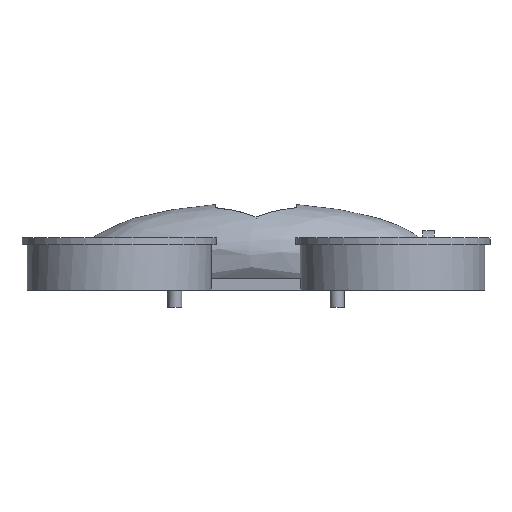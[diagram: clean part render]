
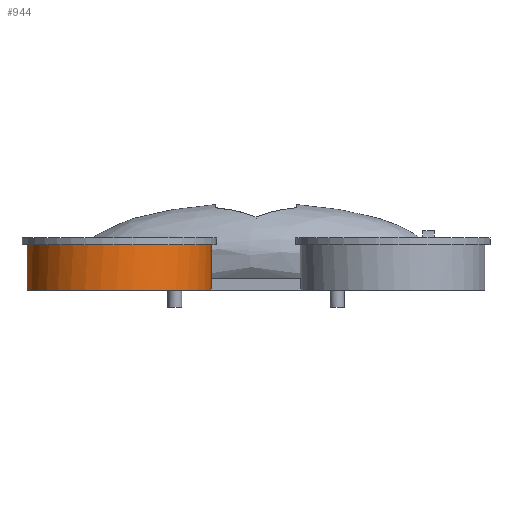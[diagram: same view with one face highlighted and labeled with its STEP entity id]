
A CAD part, front view. The second image highlights one B-rep face of the part: STEP entity #944.
In plain terms, the highlighted cylindrical face has radius 79.6 mm (diameter 159.2 mm), a full revolution.
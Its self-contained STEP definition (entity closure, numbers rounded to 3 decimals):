
#157 = VERTEX_POINT('',#158);
#158 = CARTESIAN_POINT('',(-130.,-59.31,0.));
#175 = VERTEX_POINT('',#176);
#176 = CARTESIAN_POINT('',(-106.,-59.31,0.));
#182 = EDGE_CURVE('',#183,#175,#185,.T.);
#183 = VERTEX_POINT('',#184);
#184 = CARTESIAN_POINT('',(-38.457,-135.,0.));
#185 = CIRCLE('',#186,79.6);
#186 = AXIS2_PLACEMENT_3D('',#187,#188,#189);
#187 = CARTESIAN_POINT('',(-118.,-138.,0.));
#188 = DIRECTION('',(0.,0.,1.));
#189 = DIRECTION('',(1.,0.,0.));
#251 = VERTEX_POINT('',#252);
#252 = CARTESIAN_POINT('',(-38.457,-141.,0.));
#258 = EDGE_CURVE('',#157,#251,#259,.T.);
#259 = CIRCLE('',#260,79.6);
#260 = AXIS2_PLACEMENT_3D('',#261,#262,#263);
#261 = CARTESIAN_POINT('',(-118.,-138.,0.));
#262 = DIRECTION('',(0.,0.,1.));
#263 = DIRECTION('',(1.,0.,0.));
#823 = EDGE_CURVE('',#157,#824,#826,.T.);
#824 = VERTEX_POINT('',#825);
#825 = CARTESIAN_POINT('',(-130.,-59.31,10.));
#826 = LINE('',#827,#828);
#827 = CARTESIAN_POINT('',(-130.,-59.31,0.));
#828 = VECTOR('',#829,1.);
#829 = DIRECTION('',(0.,0.,1.));
#902 = EDGE_CURVE('',#175,#903,#905,.T.);
#903 = VERTEX_POINT('',#904);
#904 = CARTESIAN_POINT('',(-106.,-59.31,10.));
#905 = LINE('',#906,#907);
#906 = CARTESIAN_POINT('',(-106.,-59.31,0.));
#907 = VECTOR('',#908,1.);
#908 = DIRECTION('',(0.,0.,1.));
#944 = ADVANCED_FACE('',(#945),#1006,.T.);
#945 = FACE_BOUND('',#946,.T.);
#946 = EDGE_LOOP('',(#947,#958,#966,#973,#974,#983,#989,#990,#991,#998,
    #999,#1000));
#947 = ORIENTED_EDGE('',*,*,#948,.T.);
#948 = EDGE_CURVE('',#949,#951,#953,.T.);
#949 = VERTEX_POINT('',#950);
#950 = CARTESIAN_POINT('',(-38.457,-141.,10.));
#951 = VERTEX_POINT('',#952);
#952 = CARTESIAN_POINT('',(-38.4,-138.,10.));
#953 = CIRCLE('',#954,79.6);
#954 = AXIS2_PLACEMENT_3D('',#955,#956,#957);
#955 = CARTESIAN_POINT('',(-118.,-138.,10.));
#956 = DIRECTION('',(0.,0.,1.));
#957 = DIRECTION('',(1.,0.,0.));
#958 = ORIENTED_EDGE('',*,*,#959,.T.);
#959 = EDGE_CURVE('',#951,#960,#962,.T.);
#960 = VERTEX_POINT('',#961);
#961 = CARTESIAN_POINT('',(-38.4,-138.,39.));
#962 = LINE('',#963,#964);
#963 = CARTESIAN_POINT('',(-38.4,-138.,0.));
#964 = VECTOR('',#965,1.);
#965 = DIRECTION('',(0.,0.,1.));
#966 = ORIENTED_EDGE('',*,*,#967,.F.);
#967 = EDGE_CURVE('',#960,#960,#968,.T.);
#968 = CIRCLE('',#969,79.6);
#969 = AXIS2_PLACEMENT_3D('',#970,#971,#972);
#970 = CARTESIAN_POINT('',(-118.,-138.,39.));
#971 = DIRECTION('',(0.,0.,1.));
#972 = DIRECTION('',(1.,0.,0.));
#973 = ORIENTED_EDGE('',*,*,#959,.F.);
#974 = ORIENTED_EDGE('',*,*,#975,.T.);
#975 = EDGE_CURVE('',#951,#976,#978,.T.);
#976 = VERTEX_POINT('',#977);
#977 = CARTESIAN_POINT('',(-38.457,-135.,10.));
#978 = CIRCLE('',#979,79.6);
#979 = AXIS2_PLACEMENT_3D('',#980,#981,#982);
#980 = CARTESIAN_POINT('',(-118.,-138.,10.));
#981 = DIRECTION('',(0.,0.,1.));
#982 = DIRECTION('',(1.,0.,0.));
#983 = ORIENTED_EDGE('',*,*,#984,.F.);
#984 = EDGE_CURVE('',#183,#976,#985,.T.);
#985 = LINE('',#986,#987);
#986 = CARTESIAN_POINT('',(-38.457,-135.,0.));
#987 = VECTOR('',#988,1.);
#988 = DIRECTION('',(0.,0.,1.));
#989 = ORIENTED_EDGE('',*,*,#182,.T.);
#990 = ORIENTED_EDGE('',*,*,#902,.T.);
#991 = ORIENTED_EDGE('',*,*,#992,.T.);
#992 = EDGE_CURVE('',#903,#824,#993,.T.);
#993 = CIRCLE('',#994,79.6);
#994 = AXIS2_PLACEMENT_3D('',#995,#996,#997);
#995 = CARTESIAN_POINT('',(-118.,-138.,10.));
#996 = DIRECTION('',(0.,0.,1.));
#997 = DIRECTION('',(1.,0.,0.));
#998 = ORIENTED_EDGE('',*,*,#823,.F.);
#999 = ORIENTED_EDGE('',*,*,#258,.T.);
#1000 = ORIENTED_EDGE('',*,*,#1001,.T.);
#1001 = EDGE_CURVE('',#251,#949,#1002,.T.);
#1002 = LINE('',#1003,#1004);
#1003 = CARTESIAN_POINT('',(-38.457,-141.,0.));
#1004 = VECTOR('',#1005,1.);
#1005 = DIRECTION('',(0.,0.,1.));
#1006 = CYLINDRICAL_SURFACE('',#1007,79.6);
#1007 = AXIS2_PLACEMENT_3D('',#1008,#1009,#1010);
#1008 = CARTESIAN_POINT('',(-118.,-138.,0.));
#1009 = DIRECTION('',(0.,0.,1.));
#1010 = DIRECTION('',(1.,0.,0.));
